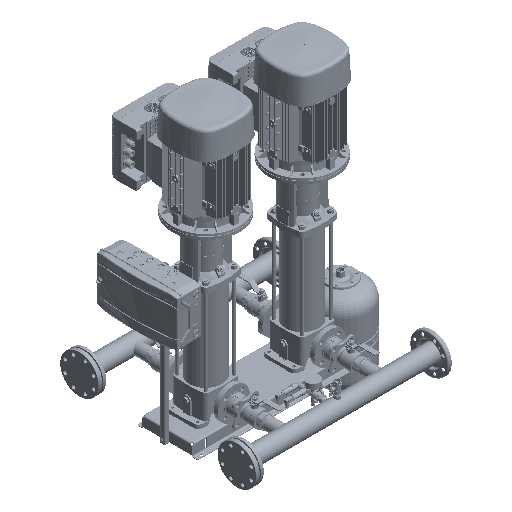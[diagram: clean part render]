
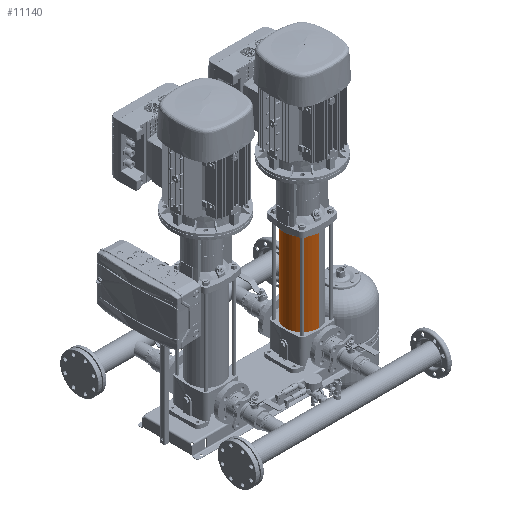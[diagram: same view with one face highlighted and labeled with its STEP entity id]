
A CAD part, isometric view. The second image highlights one B-rep face of the part: STEP entity #11140.
In plain terms, the highlighted cylindrical face has radius 85.35 mm (diameter 170.7 mm), a partial arc.
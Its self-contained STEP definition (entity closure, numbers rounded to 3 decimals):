
#11070=CARTESIAN_POINT('Axis2P3D Location',(464.,0.,0.)) ;
#11074=CARTESIAN_POINT('Vertex',(464.,-85.35,0.)) ;
#11076=CARTESIAN_POINT('Vertex',(464.,85.35,0.)) ;
#11097=CARTESIAN_POINT('Axis2P3D Location',(0.,0.,0.)) ;
#11102=CARTESIAN_POINT('Line Origine',(0.,-85.35,0.)) ;
#11106=CARTESIAN_POINT('Vertex',(0.,-85.35,0.)) ;
#11113=CARTESIAN_POINT('Vertex',(0.,85.35,0.)) ;
#11116=CARTESIAN_POINT('Line Origine',(0.,85.35,0.)) ;
#11129=CARTESIAN_POINT('Axis2P3D Location',(0.,0.,0.)) ;
#11104=VECTOR('Line Direction',#11103,1.) ;
#11118=VECTOR('Line Direction',#11117,1.) ;
#11071=DIRECTION('Axis2P3D Direction',(-1.,0.,0.)) ;
#11098=DIRECTION('Axis2P3D Direction',(1.,0.,0.)) ;
#11099=DIRECTION('Axis2P3D XDirection',(0.,-1.,0.)) ;
#11103=DIRECTION('Vector Direction',(1.,0.,0.)) ;
#11117=DIRECTION('Vector Direction',(1.,0.,0.)) ;
#11130=DIRECTION('Axis2P3D Direction',(1.,0.,0.)) ;
#11072=AXIS2_PLACEMENT_3D('Circle Axis2P3D',#11070,#11071,$) ;
#11100=AXIS2_PLACEMENT_3D('Cylinder Axis2P3D',#11097,#11098,#11099) ;
#11131=AXIS2_PLACEMENT_3D('Circle Axis2P3D',#11129,#11130,$) ;
#11105=LINE('Line',#11102,#11104) ;
#11119=LINE('Line',#11116,#11118) ;
#11073=CIRCLE('generated circle',#11072,85.35) ;
#11132=CIRCLE('generated circle',#11131,85.35) ;
#11101=CYLINDRICAL_SURFACE('generated cylinder',#11100,85.35) ;
#11078=EDGE_CURVE('',#11075,#11077,#11073,.T.) ;
#11108=EDGE_CURVE('',#11075,#11107,#11105,.F.) ;
#11120=EDGE_CURVE('',#11114,#11077,#11119,.T.) ;
#11133=EDGE_CURVE('',#11107,#11114,#11132,.F.) ;
#11135=ORIENTED_EDGE('',*,*,#11120,.F.) ;
#11136=ORIENTED_EDGE('',*,*,#11133,.F.) ;
#11137=ORIENTED_EDGE('',*,*,#11108,.F.) ;
#11138=ORIENTED_EDGE('',*,*,#11078,.T.) ;
#11134=EDGE_LOOP('',(#11135,#11136,#11137,#11138)) ;
#11075=VERTEX_POINT('',#11074) ;
#11077=VERTEX_POINT('',#11076) ;
#11107=VERTEX_POINT('',#11106) ;
#11114=VERTEX_POINT('',#11113) ;
#11140=ADVANCED_FACE('Solid1',(#11139),#11101,.T.) ;
#11139=FACE_OUTER_BOUND('',#11134,.T.) ;
